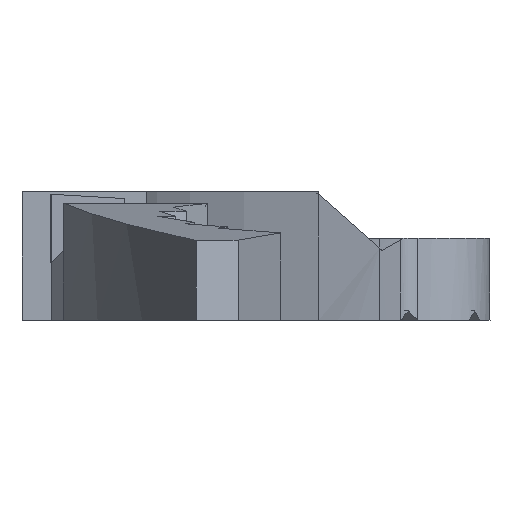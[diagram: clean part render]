
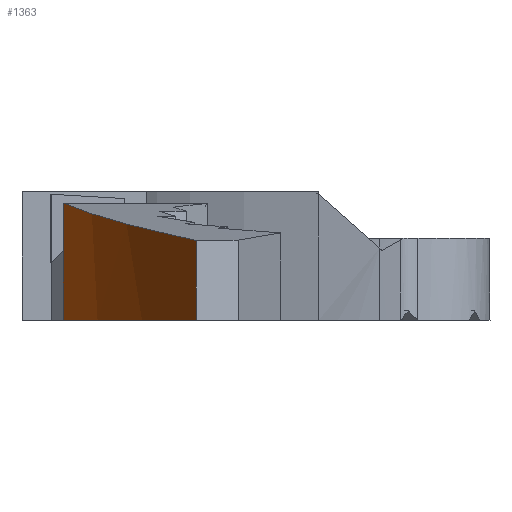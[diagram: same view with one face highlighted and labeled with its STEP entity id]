
A CAD part, front view. The second image highlights one B-rep face of the part: STEP entity #1363.
In plain terms, the highlighted cylindrical face has radius 230.804 mm (diameter 461.607 mm), a partial arc.
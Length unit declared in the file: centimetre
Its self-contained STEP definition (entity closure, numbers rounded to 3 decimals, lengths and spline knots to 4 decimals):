
#185=VECTOR('',#1612,1.);
#195=VECTOR('',#1631,1.);
#285=LINE('',#2486,#185);
#295=LINE('',#2587,#195);
#352=B_SPLINE_CURVE_WITH_KNOTS('',3,(#2510,#2511,#2512,#2513,#2514,#2515),
 .UNSPECIFIED.,.F.,.U.,(4,2,4),(0.,2.4823,5.4256),
 .UNSPECIFIED.);
#454=VERTEX_POINT('',#1798);
#455=VERTEX_POINT('',#1800);
#510=VERTEX_POINT('',#2477);
#511=VERTEX_POINT('',#2479);
#513=VERTEX_POINT('',#2516);
#562=CIRCLE('',#1413,23.0804);
#570=CIRCLE('',#1438,23.0804);
#604=EDGE_CURVE('',#455,#454,#562,.T.);
#685=EDGE_CURVE('',#511,#510,#570,.T.);
#688=EDGE_CURVE('',#455,#510,#285,.T.);
#691=EDGE_CURVE('',#513,#511,#352,.T.);
#711=EDGE_CURVE('',#454,#513,#295,.T.);
#997=ORIENTED_EDGE('',*,*,#691,.T.);
#998=ORIENTED_EDGE('',*,*,#685,.T.);
#999=ORIENTED_EDGE('',*,*,#688,.F.);
#1000=ORIENTED_EDGE('',*,*,#604,.T.);
#1001=ORIENTED_EDGE('',*,*,#711,.T.);
#1203=EDGE_LOOP('',(#997,#998,#999,#1000,#1001));
#1286=FACE_BOUND('',#1203,.T.);
#1363=ADVANCED_FACE('',(#1286),#2883,.T.);
#1413=AXIS2_PLACEMENT_3D('',#1799,#1528,#1529);
#1438=AXIS2_PLACEMENT_3D('',#2478,#1608,#1609);
#1449=AXIS2_PLACEMENT_3D('',#2588,#1632,#1633);
#1528=DIRECTION('',(0.,0.,1.));
#1529=DIRECTION('',(23.08,0.,0.));
#1608=DIRECTION('',(0.,0.,-1.));
#1609=DIRECTION('',(23.08,0.,0.));
#1612=DIRECTION('',(0.,0.,1.));
#1631=DIRECTION('',(0.,0.,1.));
#1632=DIRECTION('',(0.,0.,1.));
#1633=DIRECTION('',(23.08,0.,0.));
#1798=CARTESIAN_POINT('',(0.6765,-10.1762,0.));
#1799=CARTESIAN_POINT('',(21.3924,0.,0.));
#1800=CARTESIAN_POINT('',(-1.1289,-5.0491,0.));
#2477=CARTESIAN_POINT('',(-1.1289,-5.0491,1.5875));
#2478=CARTESIAN_POINT('',(21.3924,0.,1.5875));
#2479=CARTESIAN_POINT('',(-1.1184,-5.0958,1.5875));
#2486=CARTESIAN_POINT('',(-1.1289,-5.0491,0.));
#2510=CARTESIAN_POINT('',(0.6765,-10.1762,1.0822));
#2511=CARTESIAN_POINT('',(0.3133,-9.4367,1.1591));
#2512=CARTESIAN_POINT('',(-0.0101,-8.6783,1.2359));
#2513=CARTESIAN_POINT('',(-0.6268,-6.9865,1.4042));
#2514=CARTESIAN_POINT('',(-0.9027,-6.0485,1.4957));
#2515=CARTESIAN_POINT('',(-1.1184,-5.0958,1.5875));
#2516=CARTESIAN_POINT('',(0.6765,-10.1762,1.0822));
#2587=CARTESIAN_POINT('',(0.6765,-10.1762,0.));
#2588=CARTESIAN_POINT('',(21.3924,0.,0.));
#2883=CYLINDRICAL_SURFACE('',#1449,23.0804);
